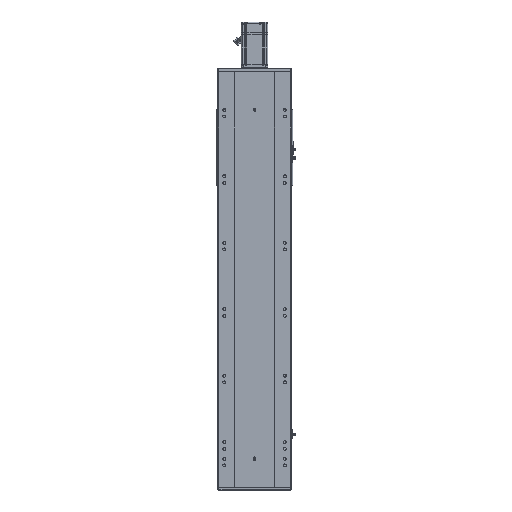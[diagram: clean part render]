
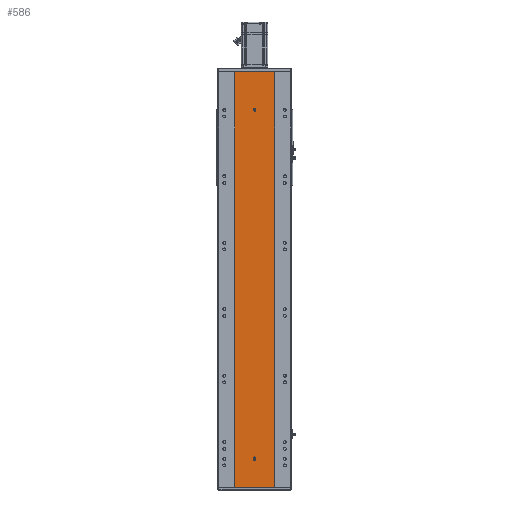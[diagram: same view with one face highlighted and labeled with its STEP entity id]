
A CAD part, front view. The second image highlights one B-rep face of the part: STEP entity #586.
In plain terms, the highlighted planar face has unit normal (0, -1, 0).
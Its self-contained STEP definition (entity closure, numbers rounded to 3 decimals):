
#586 = ADVANCED_FACE ( 'NONE', ( #10016, #51758, #67472 ), #23272, .F. ) ;
#1174 = EDGE_CURVE ( 'NONE', #13512, #47818, #60508, .T. ) ;
#1244 = VERTEX_POINT ( 'NONE', #21938 ) ;
#1947 = ORIENTED_EDGE ( 'NONE', *, *, #11315, .F. ) ;
#2874 = VERTEX_POINT ( 'NONE', #14406 ) ;
#3322 = EDGE_LOOP ( 'NONE', ( #66419, #28106, #20712, #22009, #32361 ) ) ;
#3861 = DIRECTION ( 'NONE',  ( 0., 0., 1. ) ) ;
#4074 = EDGE_LOOP ( 'NONE', ( #61788, #27314, #22672, #21910 ) ) ;
#4618 = ORIENTED_EDGE ( 'NONE', *, *, #58631, .F. ) ;
#5451 = CARTESIAN_POINT ( 'NONE',  ( 0., 0., 80.5 ) ) ;
#5507 = DIRECTION ( 'NONE',  ( 1., 0., 0. ) ) ;
#6391 = EDGE_CURVE ( 'NONE', #34687, #70899, #18264, .T. ) ;
#6663 = AXIS2_PLACEMENT_3D ( 'NONE', #45890, #28209, #17472 ) ;
#8163 = AXIS2_PLACEMENT_3D ( 'NONE', #8670, #63432, #46862 ) ;
#8670 = CARTESIAN_POINT ( 'NONE',  ( 0., 0., 84.5 ) ) ;
#8840 = CARTESIAN_POINT ( 'NONE',  ( 0., 0., 1136. ) ) ;
#9765 = CARTESIAN_POINT ( 'NONE',  ( -4., 0., 84.5 ) ) ;
#10016 = FACE_BOUND ( 'NONE', #19737, .T. ) ;
#10409 = CARTESIAN_POINT ( 'NONE',  ( -60., 0., 1250. ) ) ;
#10544 = CARTESIAN_POINT ( 'NONE',  ( 60., 0., 1250. ) ) ;
#11315 = EDGE_CURVE ( 'NONE', #12433, #1244, #38529, .T. ) ;
#12433 = VERTEX_POINT ( 'NONE', #13915 ) ;
#12974 = DIRECTION ( 'NONE',  ( 0., -1., 0. ) ) ;
#13512 = VERTEX_POINT ( 'NONE', #46950 ) ;
#13673 = EDGE_CURVE ( 'NONE', #64999, #34687, #21601, .T. ) ;
#13915 = CARTESIAN_POINT ( 'NONE',  ( 0., 0., 1132. ) ) ;
#14406 = CARTESIAN_POINT ( 'NONE',  ( -4., 0., 87.5 ) ) ;
#15081 = CARTESIAN_POINT ( 'NONE',  ( 4., 0., 84.5 ) ) ;
#15671 = DIRECTION ( 'NONE',  ( 0., 0., -1. ) ) ;
#15751 = AXIS2_PLACEMENT_3D ( 'NONE', #8840, #31011, #58236 ) ;
#17472 = DIRECTION ( 'NONE',  ( 0., 0., -1. ) ) ;
#18264 = LINE ( 'NONE', #54105, #40074 ) ;
#19737 = EDGE_LOOP ( 'NONE', ( #1947, #4618 ) ) ;
#20031 = VERTEX_POINT ( 'NONE', #65367 ) ;
#20152 = VECTOR ( 'NONE', #37724, 1000. ) ;
#20712 = ORIENTED_EDGE ( 'NONE', *, *, #70774, .F. ) ;
#20823 = DIRECTION ( 'NONE',  ( 1., 0., 0. ) ) ;
#21601 = LINE ( 'NONE', #43552, #49381 ) ;
#21910 = ORIENTED_EDGE ( 'NONE', *, *, #13673, .T. ) ;
#21938 = CARTESIAN_POINT ( 'NONE',  ( 0., 0., 1140. ) ) ;
#22009 = ORIENTED_EDGE ( 'NONE', *, *, #38297, .F. ) ;
#22672 = ORIENTED_EDGE ( 'NONE', *, *, #47532, .F. ) ;
#22895 = CARTESIAN_POINT ( 'NONE',  ( 60., 0., 1250. ) ) ;
#23272 = PLANE ( 'NONE',  #40728 ) ;
#24648 = CARTESIAN_POINT ( 'NONE',  ( 0., 0., 1136. ) ) ;
#26838 = AXIS2_PLACEMENT_3D ( 'NONE', #38231, #26862, #32701 ) ;
#26862 = DIRECTION ( 'NONE',  ( 0., -1., 0. ) ) ;
#27314 = ORIENTED_EDGE ( 'NONE', *, *, #46262, .F. ) ;
#28106 = ORIENTED_EDGE ( 'NONE', *, *, #66422, .F. ) ;
#28209 = DIRECTION ( 'NONE',  ( 0., -1., 0. ) ) ;
#29555 = DIRECTION ( 'NONE',  ( 0., 0., -1. ) ) ;
#31011 = DIRECTION ( 'NONE',  ( 0., -1., 0. ) ) ;
#31811 = CARTESIAN_POINT ( 'NONE',  ( -60., 0., 1250. ) ) ;
#32361 = ORIENTED_EDGE ( 'NONE', *, *, #56063, .F. ) ;
#32701 = DIRECTION ( 'NONE',  ( 0., 0., -1. ) ) ;
#34532 = CARTESIAN_POINT ( 'NONE',  ( 60., 0., 0. ) ) ;
#34687 = VERTEX_POINT ( 'NONE', #40289 ) ;
#37724 = DIRECTION ( 'NONE',  ( 0., 0., -1. ) ) ;
#38034 = CIRCLE ( 'NONE', #6663, 4. ) ;
#38040 = CARTESIAN_POINT ( 'NONE',  ( 4., 0., 87.5 ) ) ;
#38231 = CARTESIAN_POINT ( 'NONE',  ( 0., 0., 87.5 ) ) ;
#38297 = EDGE_CURVE ( 'NONE', #2874, #20031, #54946, .T. ) ;
#38439 = DIRECTION ( 'NONE',  ( 0., 0., -1. ) ) ;
#38529 = CIRCLE ( 'NONE', #45664, 4. ) ;
#40074 = VECTOR ( 'NONE', #20823, 1000. ) ;
#40246 = DIRECTION ( 'NONE',  ( 0., 0., 1. ) ) ;
#40289 = CARTESIAN_POINT ( 'NONE',  ( -60., 0., 0. ) ) ;
#40728 = AXIS2_PLACEMENT_3D ( 'NONE', #51684, #62173, #40246 ) ;
#41752 = VECTOR ( 'NONE', #5507, 1000. ) ;
#43552 = CARTESIAN_POINT ( 'NONE',  ( -60., 0., 1250. ) ) ;
#45664 = AXIS2_PLACEMENT_3D ( 'NONE', #24648, #12974, #29555 ) ;
#45890 = CARTESIAN_POINT ( 'NONE',  ( 0., 0., 84.5 ) ) ;
#46262 = EDGE_CURVE ( 'NONE', #59852, #70899, #64601, .T. ) ;
#46564 = CIRCLE ( 'NONE', #15751, 4. ) ;
#46862 = DIRECTION ( 'NONE',  ( 0., 0., -1. ) ) ;
#46950 = CARTESIAN_POINT ( 'NONE',  ( 4., 0., 84.5 ) ) ;
#47423 = VECTOR ( 'NONE', #3861, 1000. ) ;
#47532 = EDGE_CURVE ( 'NONE', #64999, #59852, #55730, .T. ) ;
#47818 = VERTEX_POINT ( 'NONE', #38040 ) ;
#49381 = VECTOR ( 'NONE', #38439, 1000. ) ;
#50641 = CIRCLE ( 'NONE', #26838, 4. ) ;
#51684 = CARTESIAN_POINT ( 'NONE',  ( -60., 0., 1250. ) ) ;
#51758 = FACE_BOUND ( 'NONE', #3322, .T. ) ;
#54105 = CARTESIAN_POINT ( 'NONE',  ( -60., 0., 0. ) ) ;
#54946 = LINE ( 'NONE', #9765, #20152 ) ;
#55730 = LINE ( 'NONE', #10409, #41752 ) ;
#56063 = EDGE_CURVE ( 'NONE', #47818, #2874, #50641, .T. ) ;
#58236 = DIRECTION ( 'NONE',  ( 0., 0., -1. ) ) ;
#58631 = EDGE_CURVE ( 'NONE', #1244, #12433, #46564, .T. ) ;
#59852 = VERTEX_POINT ( 'NONE', #22895 ) ;
#60206 = VECTOR ( 'NONE', #15671, 1000. ) ;
#60508 = LINE ( 'NONE', #15081, #47423 ) ;
#61788 = ORIENTED_EDGE ( 'NONE', *, *, #6391, .T. ) ;
#62173 = DIRECTION ( 'NONE',  ( 0., 1., 0. ) ) ;
#63041 = CIRCLE ( 'NONE', #8163, 4. ) ;
#63432 = DIRECTION ( 'NONE',  ( 0., -1., 0. ) ) ;
#64601 = LINE ( 'NONE', #10544, #60206 ) ;
#64999 = VERTEX_POINT ( 'NONE', #31811 ) ;
#65367 = CARTESIAN_POINT ( 'NONE',  ( -4., 0., 84.5 ) ) ;
#66419 = ORIENTED_EDGE ( 'NONE', *, *, #1174, .F. ) ;
#66422 = EDGE_CURVE ( 'NONE', #66702, #13512, #63041, .T. ) ;
#66702 = VERTEX_POINT ( 'NONE', #5451 ) ;
#67472 = FACE_OUTER_BOUND ( 'NONE', #4074, .T. ) ;
#70774 = EDGE_CURVE ( 'NONE', #20031, #66702, #38034, .T. ) ;
#70899 = VERTEX_POINT ( 'NONE', #34532 ) ;
